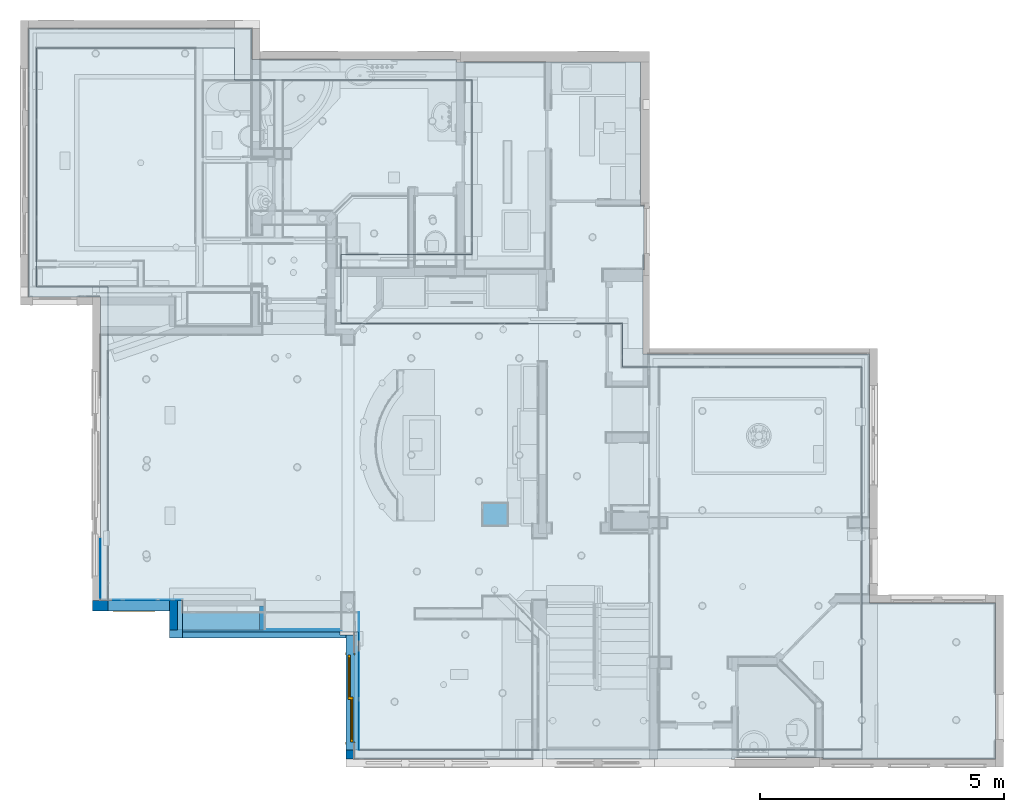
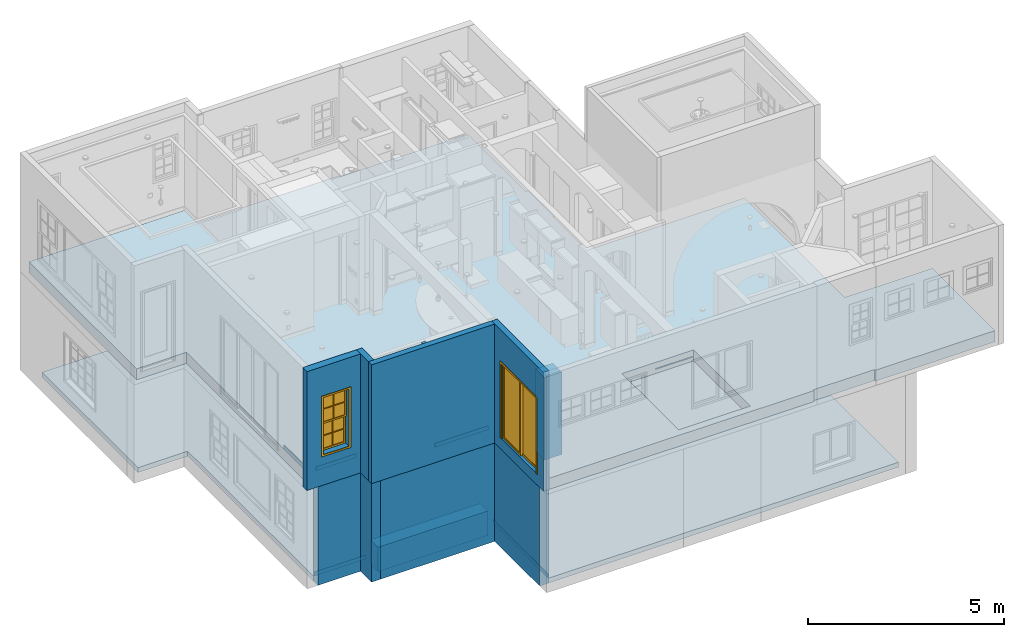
# One storey, part 1 of 81: 15 walls, 2 slabs, 1 column, 1 door, 1 window, 4 openings.
"""IFC2X3 building model written with IfcOpenShell, lengths in feet."""

from ifc_helpers import new_model, entity, si_unit, converted_unit, derived_unit, direction, frame, frame_2d, origin, origin_2d_with_axis, place, context, subcontext, project, spatial, polyline, rectangle, outline, extrude, clip, bounded_halfspace, source, transform, mapped, material, material_list, layer, layer_set, layer_usage, type_object, type_shapes, element, fill, save


model = new_model("IFC2X3")

# Units and contexts
model_context = context("Model", 3, precision=0.0001, world=origin(), true_north=direction((6.12303176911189e-17, 1.0)))
body_context = subcontext(model_context, "Body", "Model", "MODEL_VIEW")
ifc_project = project(units=[converted_unit("LENGTHUNIT", "FOOT", entity("IfcRatioMeasure", 0.3048), si_unit("LENGTHUNIT", "METRE"), dimensions=[1, 0, 0, 0, 0, 0, 0]), converted_unit("AREAUNIT", "SQUARE FOOT", entity("IfcRatioMeasure", 0.09290304), si_unit("AREAUNIT", "SQUARE_METRE"), dimensions=[2, 0, 0, 0, 0, 0, 0]), converted_unit("VOLUMEUNIT", "CUBIC FOOT", entity("IfcRatioMeasure", 0.028316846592), si_unit("VOLUMEUNIT", "CUBIC_METRE"), dimensions=[3, 0, 0, 0, 0, 0, 0]), converted_unit("PLANEANGLEUNIT", "DEGREE", entity("IfcRatioMeasure", 0.0174532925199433), si_unit("PLANEANGLEUNIT", "RADIAN"), dimensions=[0, 0, 0, 0, 0, 0, 0]), si_unit("MASSUNIT", "GRAM", prefix="KILO"), derived_unit("MASSDENSITYUNIT", [(si_unit("MASSUNIT", "GRAM", prefix="KILO"), 1), (si_unit("LENGTHUNIT", "METRE"), -3)]), derived_unit("MOMENTOFINERTIAUNIT", [(si_unit("LENGTHUNIT", "METRE"), 4)]), si_unit("TIMEUNIT", "SECOND"), si_unit("FREQUENCYUNIT", "HERTZ"), si_unit("THERMODYNAMICTEMPERATUREUNIT", "DEGREE_CELSIUS"), derived_unit("THERMALTRANSMITTANCEUNIT", [(si_unit("MASSUNIT", "GRAM", prefix="KILO"), 1), (si_unit("THERMODYNAMICTEMPERATUREUNIT", "KELVIN"), -1), (si_unit("TIMEUNIT", "SECOND"), -3)]), derived_unit("VOLUMETRICFLOWRATEUNIT", [(si_unit("LENGTHUNIT", "METRE"), 3), (si_unit("TIMEUNIT", "SECOND"), -1)]), si_unit("ELECTRICCURRENTUNIT", "AMPERE"), si_unit("ELECTRICVOLTAGEUNIT", "VOLT"), si_unit("POWERUNIT", "WATT"), si_unit("FORCEUNIT", "NEWTON"), si_unit("ILLUMINANCEUNIT", "LUX"), si_unit("LUMINOUSFLUXUNIT", "LUMEN"), si_unit("LUMINOUSINTENSITYUNIT", "CANDELA"), derived_unit("USERDEFINED", [(si_unit("MASSUNIT", "GRAM", prefix="KILO"), -1), (si_unit("LENGTHUNIT", "METRE"), -2), (si_unit("TIMEUNIT", "SECOND"), 3), (si_unit("LUMINOUSFLUXUNIT", "LUMEN"), 1)]), derived_unit("LINEARVELOCITYUNIT", [(si_unit("LENGTHUNIT", "METRE"), 1), (si_unit("TIMEUNIT", "SECOND"), -1)]), si_unit("PRESSUREUNIT", "PASCAL"), derived_unit("USERDEFINED", [(si_unit("LENGTHUNIT", "METRE"), -2), (si_unit("MASSUNIT", "GRAM", prefix="KILO"), 1), (si_unit("TIMEUNIT", "SECOND"), -2)]), derived_unit("LINEARFORCEUNIT", [(si_unit("MASSUNIT", "GRAM", prefix="KILO"), 1), (si_unit("LENGTHUNIT", "METRE"), 1), (si_unit("TIMEUNIT", "SECOND"), -2), (si_unit("LENGTHUNIT", "METRE"), -1)]), derived_unit("PLANARFORCEUNIT", [(si_unit("MASSUNIT", "GRAM", prefix="KILO"), 1), (si_unit("LENGTHUNIT", "METRE"), 1), (si_unit("TIMEUNIT", "SECOND"), -2), (si_unit("LENGTHUNIT", "METRE"), -2)])], contexts=[model_context])

# Site, building, storey
site_placement = place(None, origin())
site = spatial("IfcSite", under=ifc_project, at=site_placement, Name="Default", CompositionType="ELEMENT")
building_placement = place(site_placement, origin())
building = spatial("IfcBuilding", under=site, at=building_placement, CompositionType="ELEMENT")
storey_placement = place(building_placement, origin())
storey = spatial("IfcBuildingStorey", under=building, at=storey_placement, Name="First floor", CompositionType="ELEMENT", Elevation=0.0)

# Column
ifc_material_1 = material(Name="Default New Material")
column_type = type_object("IfcColumnType", Name="M_Rectangular Column:475 x 610mm", PredefinedType="COLUMN", material=ifc_material_1)
shared_shape_1 = source(origin(), body_context, "Body", "SweptSolid", [
    extrude(rectangle(XDim=1.49999999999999, YDim=1.66666666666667, at=frame_2d((1.77635683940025e-15, 0.0), x_axis=(1.0, 0.0))), frame((10.0, 16.9583333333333, 0.0), z_axis=(0.0, 0.0, 1.0), x_axis=(0.0, -1.0, 0.0)), (0.0, 0.0, 1.0), 8.41666666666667),
])
type_shapes(column_type, [shared_shape_1])
column_placement = place(storey_placement, origin())
element("IfcColumn", 1, at=column_placement, inside=storey, type_object=column_type, material=ifc_material_1, Name="M_Rectangular Column:475 x 610mm", ObjectType="M_Rectangular Column:475 x 610mm", context=body_context, shape_type="MappedRepresentation", body=[
    mapped(shared_shape_1, transform((0.0, 0.0, 0.0), scale=1.0)),
])

# Slab
ifc_layer_1 = layer(ifc_material_1, 0.5)
ifc_layer_set_1 = layer_set([ifc_layer_1], Name="Floor:Floor_6\"")
ifc_layer_usage_1 = layer_usage(ifc_layer_set_1, "AXIS3", "POSITIVE", 0.0)
slab_type_1 = type_object("IfcSlabType", Name="Floor:Floor_6\"", PredefinedType="FLOOR", material=ifc_layer_set_1)
slab_1_placement = place(storey_placement, origin())
element("IfcSlab", 2, at=slab_1_placement, inside=storey, type_object=slab_type_1, material=ifc_layer_usage_1, Name="Floor:Floor_6\"", ObjectType="Floor:Floor_6\"", PredefinedType="FLOOR", context=body_context, shape_type="SweptSolid", body=[
    extrude(outline(polyline([(5.67129629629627, -21.5532407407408), (21.7129629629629, -21.5532407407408), (21.712962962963, -8.24074074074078), (19.5462962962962, -8.24074074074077), (19.5462962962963, 7.69675925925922), (7.83796296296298, 7.69675925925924), (7.83796296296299, -1.09490740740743), (3.21296296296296, -1.09490740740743), (3.21296296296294, 17.7800925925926), (0.29629629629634, 17.7800925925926), (0.296296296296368, 33.8634259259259), (-25.412037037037, 33.8634259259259), (-25.412037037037, 0.0717592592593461), (-17.4953703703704, 0.071759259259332), (-17.4953703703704, -11.761574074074), (-15.3703703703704, -11.7615740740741), (-15.3703703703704, -16.761574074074), (5.67129629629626, -16.7615740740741), (5.67129629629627, -21.5532407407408)])), frame((0.761574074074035, 26.5787037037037, 0.0), z_axis=(0.0, 0.0, -1.0), x_axis=(0.0, 1.0, 0.0)), (0.0, 0.0, 1.0), 0.5),
])

# Slab, openings
ifc_layer_2 = layer(ifc_material_1, 1.125)
ifc_layer_set_2 = layer_set([ifc_layer_2], Name="Floor:Floor_13.5\"")
ifc_layer_usage_2 = layer_usage(ifc_layer_set_2, "AXIS3", "POSITIVE", 0.0)
slab_type_2 = type_object("IfcSlabType", Name="Floor:Floor_13.5\"", PredefinedType="FLOOR", material=ifc_layer_set_2)
slab_2_placement = place(storey_placement, frame((-21.3125, 0.541666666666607, 9.54166666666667)))
slab_2 = element("IfcSlab", 3, at=slab_2_placement, inside=storey, type_object=slab_type_2, material=ifc_layer_usage_2, Name="Floor:Floor_13.5\"", ObjectType="Floor:Floor_13.5\"", PredefinedType="FLOOR", context=body_context, shape_type="SweptSolid", body=[
    extrude(outline(polyline([(32.4479166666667, 6.52083333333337), (32.4479166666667, 24.5208333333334), (17.4479166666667, 24.5208333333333), (17.4479166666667, 22.4371548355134), (3.71875000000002, 22.4371548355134), (3.71875000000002, 22.2704881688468), (-8.61458333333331, 22.2704881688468), (-8.61458333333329, 12.6454881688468), (-8.86458333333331, 12.6454881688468), (-8.8645833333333, 8.35382150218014), (-8.78124999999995, 8.35382150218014), (-8.78124999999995, 2.68750000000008), (-23.9895833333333, 2.68750000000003), (-23.9895833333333, -14.0416666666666), (-32.4479166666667, -14.0416666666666), (-32.4479166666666, -24.5208333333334), (-20.8645833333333, -24.5208333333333), (-20.8645833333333, -24.3958333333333), (-14.96875, -24.3958333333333), (-14.96875, -24.5208333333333), (-9.29232083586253, -24.5208333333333), (10.59375, -24.5208333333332), (10.59375, -15.8541666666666), (22.46875, -15.8541666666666), (22.46875, -13.8541666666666), (27.6354166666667, -13.8541666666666), (27.6354166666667, 6.52083333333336), (32.4479166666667, 6.52083333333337)])), frame((32.4479166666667, 24.5208333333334, 1.125), z_axis=(0.0, 0.0, -1.0), x_axis=(-1.0, 0.0, 0.0)), (0.0, 0.0, 1.0), 1.125),
])
opening_1_placement = place(slab_2_placement, origin())
element("IfcOpeningElement", 4, at=opening_1_placement, cuts=slab_2, ObjectType="Recess", context=body_context, shape_type="SweptSolid", body=[
    extrude(rectangle(XDim=3.6995442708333, YDim=0.124907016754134, at=origin_2d_with_axis()), frame((39.87060546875, 10.2291201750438, 0.416666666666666), z_axis=(0.0, 0.0, 1.0), x_axis=(-1.0, 0.0, 0.0)), (0.0, 0.0, 1.0), 0.0833333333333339),
])
opening_2_placement = place(slab_2_placement, frame((38.2291666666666, 5.43750000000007, 1.125)))
element("IfcOpeningElement", 5, at=opening_2_placement, cuts=slab_2, Name="Floor:Floor_13.5\":2", ObjectType="Opening", context=body_context, shape_type="SweptSolid", body=[
    extrude(rectangle(XDim=6.91666666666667, YDim=9.45833333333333, at=origin_2d_with_axis()), origin(), (0.0, 0.0, -1.0), 1.125),
])

# Wall, opening, door
ifc_layer_3 = layer(ifc_material_1, 0.541666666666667)
ifc_layer_set_3 = layer_set([ifc_layer_3], Name="Basic Wall:Wall_6.5\"")
ifc_layer_usage_3 = layer_usage(ifc_layer_set_3, "AXIS2", "NEGATIVE", 0.270833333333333)
wall_type_1 = type_object("IfcWallType", Name="Basic Wall:Wall_6.5\"", PredefinedType="STANDARD", material=ifc_layer_set_3)
wall_1_placement = place(storey_placement, frame((0.270833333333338, 0.541666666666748, 9.54166666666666), z_axis=(0.0, 0.0, 1.0), x_axis=(0.0, 1.0, 0.0)))
wall_1 = element("IfcWallStandardCase", 6, at=wall_1_placement, inside=storey, type_object=wall_type_1, material=ifc_layer_usage_3, Name="Basic Wall:Wall_6.5\"", ObjectType="Basic Wall:Wall_6.5\"", context=body_context, shape_type="SweptSolid", body=[
    extrude(rectangle(XDim=8.66666666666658, YDim=0.541666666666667, at=frame_2d((4.33333333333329, 0.0), x_axis=(-1.0, 0.0))), origin(), (0.0, 0.0, 1.0), 12.125),
])
opening_3_placement = place(wall_1_placement, frame((1.16666666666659, -0.270833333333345, 1.125)))
opening_3 = element("IfcOpeningElement", 7, at=opening_3_placement, cuts=wall_1, Name="Door_8:5'-10\" X 7'-8\":1", ObjectType="Opening", context=body_context, shape_type="SweptSolid", body=[
    extrude(rectangle(XDim=7.66666666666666, YDim=5.83333333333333, at=frame_2d((3.83333333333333, 2.91666666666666), x_axis=(-1.0, 0.0))), frame((0.0, 0.0, 0.0), z_axis=(0.0, 1.0, 0.0), x_axis=(0.0, 0.0, 1.0)), (0.0, 0.0, 1.0), 0.541666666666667),
])
ifc_material_2 = material(Name="Glass")
ifc_material_list_1 = material_list([ifc_material_1, ifc_material_2])
ifc_material_list_2 = material_list([ifc_material_1, ifc_material_1])
door_style = type_object("IfcDoorStyle", Name="Door_8:5'-10\" X 7'-8\"", ConstructionType="NOTDEFINED", OperationType="NOTDEFINED", ParameterTakesPrecedence=False, Sizeable=False, material=ifc_material_list_2)
shared_shape_2 = source(origin(), body_context, "Body", "SweptSolid", [
    extrude(outline(polyline([(-2.91666666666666, -3.79166666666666), (-2.91666666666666, 3.875), (-3.08333333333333, 3.875), (-3.08333333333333, -3.95833333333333), (3.08333333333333, -3.95833333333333), (3.08333333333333, 3.875), (2.91666666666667, 3.875), (2.91666666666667, -3.79166666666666), (-2.91666666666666, -3.79166666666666)])), frame((2.91666666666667, 1.41666666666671, 3.875), z_axis=(0.0, 1.0, 0.0), x_axis=(1.0, 0.0, 0.0)), (0.0, 0.0, -1.0), 0.0416666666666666),
    extrude(outline(polyline([(-3.875, -2.91666666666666), (-3.875, -3.08333333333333), (3.95833333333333, -3.08333333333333), (3.95833333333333, 3.08333333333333), (-3.875, 3.08333333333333), (-3.875, 2.91666666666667), (3.79166666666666, 2.91666666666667), (3.79166666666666, -2.91666666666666), (-3.875, -2.91666666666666)])), frame((2.91666666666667, 0.833333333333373, 3.875), z_axis=(0.0, 1.0, 0.0), x_axis=(0.0, 0.0, 1.0)), (0.0, 0.0, -1.0), 0.0416666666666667),
    extrude(outline(polyline([(-3.83333333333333, -1.49999999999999), (3.83333333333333, -1.49999999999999), (3.83333333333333, 1.49999999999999), (-3.83333333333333, 1.49999999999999), (-3.83333333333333, -1.49999999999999)]), holes=[polyline([(-3.66666666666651, -1.33333333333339), (-3.66666666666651, 1.33333333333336), (3.66666666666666, 1.33333333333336), (3.66666666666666, -1.33333333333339), (-3.66666666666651, -1.33333333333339)])]), frame((1.5, 1.08333333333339, 3.83333333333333), z_axis=(0.0, -1.0, 0.0), x_axis=(0.0, 0.0, -1.0)), (0.0, 0.0, 1.0), 0.166666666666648),
    extrude(outline(polyline([(-3.83333333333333, -1.49999999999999), (3.83333333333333, -1.49999999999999), (3.83333333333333, 1.49999999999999), (-3.83333333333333, 1.49999999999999), (-3.83333333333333, -1.49999999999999)]), holes=[polyline([(-3.66666666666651, -1.33333333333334), (-3.66666666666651, 1.33333333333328), (3.66666666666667, 1.33333333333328), (3.66666666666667, -1.33333333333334), (-3.66666666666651, -1.33333333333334)])]), frame((4.33333333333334, 1.25000000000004, 3.83333333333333), z_axis=(0.0, -1.0, 0.0), x_axis=(0.0, 0.0, -1.0)), (0.0, 0.0, 1.0), 0.166666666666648),
    extrude(rectangle(XDim=2.66666666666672, YDim=0.0416666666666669, at=frame_2d((0.0, 2.77555756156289e-17), x_axis=(1.0, 0.0))), frame((1.49999999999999, 1.0, 0.166666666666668)), (0.0, 0.0, 1.0), 7.33333333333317),
    extrude(rectangle(XDim=2.66666666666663, YDim=0.0416666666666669, at=frame_2d((1.11022302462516e-16, 5.55111512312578e-17), x_axis=(1.0, 0.0))), frame((4.33333333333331, 1.16666666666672, 0.166666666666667)), (0.0, 0.0, 1.0), 7.33333333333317),
])
type_shapes(door_style, [shared_shape_2])
door_placement = place(opening_3_placement, frame((0.0, -0.833333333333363, 0.0)))
door = element("IfcDoor", 8, at=door_placement, inside=storey, type_object=door_style, material=ifc_material_list_1, Name="Door_8:5'-10\" X 7'-8\"", ObjectType="Door_8:5'-10\" X 7'-8\"", OverallHeight=7.66666666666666, OverallWidth=5.83333333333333, context=body_context, shape_type="MappedRepresentation", body=[
    mapped(shared_shape_2, transform((0.0, 0.0, 0.0), scale=1.0)),
])
fill(opening_3, door)

# Walls
ifc_layer_usage_4 = layer_usage(ifc_layer_set_3, "AXIS2", "NEGATIVE", 0.270833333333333)
wall_2_placement = place(storey_placement, frame((0.0, 8.93749999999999, 9.54166666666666), z_axis=(0.0, 0.0, 1.0), x_axis=(-1.0, 0.0, 0.0)))
element("IfcWallStandardCase", 9, at=wall_2_placement, inside=storey, type_object=wall_type_1, material=ifc_layer_usage_4, Name="Basic Wall:Wall_6.5\"", ObjectType="Basic Wall:Wall_6.5\"", context=body_context, shape_type="SweptSolid", body=[
    extrude(rectangle(XDim=11.875, YDim=0.541666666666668, at=frame_2d((5.93750000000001, 0.0), x_axis=(-1.0, 0.0))), origin(), (0.0, 0.0, 1.0), 12.125),
])
ifc_layer_usage_5 = layer_usage(ifc_layer_set_3, "AXIS2", "NEGATIVE", 0.270833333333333)
wall_3_placement = place(storey_placement, frame((-11.6041666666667, 9.20833333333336, 9.54166666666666), z_axis=(0.0, 0.0, 1.0), x_axis=(0.0, 1.0, 0.0)))
element("IfcWallStandardCase", 10, at=wall_3_placement, inside=storey, type_object=wall_type_1, material=ifc_layer_usage_5, Name="Basic Wall:Wall_6.5\"", ObjectType="Basic Wall:Wall_6.5\"", context=body_context, shape_type="SweptSolid", body=[
    extrude(rectangle(XDim=1.99999999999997, YDim=0.541666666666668, at=frame_2d((0.999999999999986, 0.0), x_axis=(-1.0, 0.0))), origin(), (0.0, 0.0, 1.0), 12.125),
])

# Wall, opening, window
ifc_layer_4 = layer(ifc_material_1, 0.708333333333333)
ifc_layer_set_4 = layer_set([ifc_layer_4], Name="Basic Wall:Wall_8.5\"")
ifc_layer_usage_6 = layer_usage(ifc_layer_set_4, "AXIS2", "NEGATIVE", 0.354166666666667)
wall_type_2 = type_object("IfcWallType", Name="Basic Wall:Wall_8.5\"", PredefinedType="STANDARD", material=ifc_layer_set_4)
wall_4_placement = place(storey_placement, frame((-11.875, 10.8541666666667, 9.54166666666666), z_axis=(0.0, 0.0, 1.0), x_axis=(-1.0, 0.0, 0.0)))
wall_4 = element("IfcWallStandardCase", 11, at=wall_4_placement, inside=storey, type_object=wall_type_2, material=ifc_layer_usage_6, Name="Basic Wall:Wall_8.5\"", ObjectType="Basic Wall:Wall_8.5\"", context=body_context, shape_type="SweptSolid", body=[
    extrude(rectangle(XDim=5.16666666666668, YDim=0.708333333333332, at=frame_2d((2.58333333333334, 0.0), x_axis=(-1.0, 0.0))), origin(), (0.0, 0.0, 1.0), 12.125),
])
opening_4_placement = place(wall_4_placement, frame((1.12500000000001, -0.35416666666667, 3.125)))
opening_4 = element("IfcOpeningElement", 12, at=opening_4_placement, cuts=wall_4, Name="Window_4:2'-6\" X 5'-10\":1", ObjectType="Opening", context=body_context, shape_type="SweptSolid", body=[
    extrude(rectangle(XDim=5.83333333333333, YDim=2.5, at=frame_2d((2.91666666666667, 1.25), x_axis=(-1.0, 0.0))), frame((0.0, 0.0, 0.0), z_axis=(0.0, 1.0, 0.0), x_axis=(0.0, 0.0, 1.0)), (0.0, 0.0, 1.0), 0.708333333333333),
])
ifc_material_list_3 = material_list([ifc_material_2, ifc_material_1])
ifc_material_3 = material(Name="Trim")
ifc_material_4 = material(Name="Sash")
ifc_material_list_4 = material_list([ifc_material_3, ifc_material_4, ifc_material_3, ifc_material_2])
window_style = type_object("IfcWindowStyle", Name="Window_4:2'-6\" X 5'-10\"", ConstructionType="NOTDEFINED", OperationType="NOTDEFINED", ParameterTakesPrecedence=False, Sizeable=False, material=ifc_material_list_4)
shared_shape_3 = source(origin(), body_context, "Body", "SweptSolid", [
    extrude(rectangle(XDim=0.0435871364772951, YDim=1.05859375, at=origin_2d_with_axis()), frame((1.80403645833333, 0.250960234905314, 4.3515625), z_axis=(0.0, 0.0, 1.0), x_axis=(0.0, 1.0, 0.0)), (0.0, 0.0, 1.0), 1.31510416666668),
    extrude(rectangle(XDim=0.0435871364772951, YDim=1.05859375, at=origin_2d_with_axis()), frame((0.695963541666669, 0.250960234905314, 4.3515625), z_axis=(0.0, 0.0, 1.0), x_axis=(0.0, 1.0, 0.0)), (0.0, 0.0, 1.0), 1.31510416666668),
    extrude(rectangle(XDim=0.0435871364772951, YDim=1.05859375, at=origin_2d_with_axis()), frame((1.80403645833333, 0.250960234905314, 3.01041666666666), z_axis=(0.0, 0.0, 1.0), x_axis=(0.0, 1.0, 0.0)), (0.0, 0.0, 1.0), 1.29166666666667),
    extrude(rectangle(XDim=0.0435871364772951, YDim=1.05859374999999, at=origin_2d_with_axis()), frame((0.695963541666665, 0.250960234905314, 3.01041666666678), z_axis=(0.0, 0.0, 1.0), x_axis=(0.0, 1.0, 0.0)), (0.0, 0.0, 1.0), 1.29166666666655),
    extrude(outline(polyline([(-1.25, -1.49479166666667), (1.25, -1.49479166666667), (1.25, 1.49479166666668), (-1.25, 1.49479166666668), (-1.25, -1.49479166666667)]), holes=[polyline([(0.0247395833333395, -1.328125), (0.0247395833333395, -0.0130208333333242), (1.08333333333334, -0.0130208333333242), (1.08333333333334, -1.328125), (0.0247395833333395, -1.328125)]), polyline([(0.0247395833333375, 1.32812500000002), (1.08333333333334, 1.32812500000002), (1.08333333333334, 0.0364583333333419), (0.0247395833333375, 0.0364583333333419), (0.0247395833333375, 1.32812500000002)]), polyline([(-1.08333333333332, -0.013020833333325), (-0.0247395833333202, -0.013020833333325), (-0.0247395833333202, -1.328125), (-1.08333333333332, -1.328125), (-1.08333333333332, -0.013020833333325)]), polyline([(-1.08333333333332, 1.32812499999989), (-0.0247395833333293, 1.32812499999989), (-0.0247395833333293, 0.0364583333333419), (-1.08333333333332, 0.0364583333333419), (-1.08333333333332, 1.32812499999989)])]), frame((1.24999999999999, 0.166666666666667, 4.33854166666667), z_axis=(0.0, 1.0, 0.0), x_axis=(1.0, 0.0, 0.0)), (0.0, 0.0, 1.0), 0.166666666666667),
    extrude(rectangle(XDim=0.0416666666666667, YDim=1.05859374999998, at=frame_2d((-1.38777878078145e-17, 0.0), x_axis=(1.0, 0.0))), frame((0.695963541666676, 0.0833333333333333, 0.166666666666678), z_axis=(0.0, 0.0, 1.0), x_axis=(0.0, -1.0, 0.0)), (0.0, 0.0, 1.0), 1.29166666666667),
    extrude(rectangle(XDim=0.0416666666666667, YDim=1.05859374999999, at=frame_2d((-1.38777878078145e-17, 0.0), x_axis=(1.0, 0.0))), frame((1.80403645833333, 0.0833333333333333, 0.166666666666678), z_axis=(0.0, 0.0, 1.0), x_axis=(0.0, -1.0, 0.0)), (0.0, 0.0, 1.0), 1.29166666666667),
    extrude(rectangle(XDim=0.0416666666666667, YDim=1.05859374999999, at=frame_2d((-1.38777878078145e-17, 0.0), x_axis=(1.0, 0.0))), frame((1.80403645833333, 0.0833333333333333, 1.50781250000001), z_axis=(0.0, 0.0, 1.0), x_axis=(0.0, -1.0, 0.0)), (0.0, 0.0, 1.0), 1.33593749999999),
    extrude(rectangle(XDim=0.0416666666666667, YDim=1.05859374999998, at=frame_2d((-1.38777878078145e-17, 0.0), x_axis=(1.0, 0.0))), frame((0.695963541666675, 0.0833333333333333, 1.50781250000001), z_axis=(0.0, 0.0, 1.0), x_axis=(0.0, -1.0, 0.0)), (0.0, 0.0, 1.0), 1.33593749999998),
    extrude(outline(polyline([(-1.25000000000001, -1.50520833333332), (1.25000000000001, -1.50520833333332), (1.25000000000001, 1.50520833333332), (-1.25000000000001, 1.50520833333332), (-1.25000000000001, -1.50520833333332)]), holes=[polyline([(0.0247395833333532, 1.33854166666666), (1.08333333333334, 1.33854166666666), (1.08333333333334, 0.0468749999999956), (0.0247395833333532, 0.0468749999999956), (0.0247395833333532, 1.33854166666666)]), polyline([(-1.0833333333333, 1.33854166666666), (-0.0247395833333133, 1.33854166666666), (-0.0247395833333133, 0.0468749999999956), (-1.0833333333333, 0.0468749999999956), (-1.0833333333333, 1.33854166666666)]), polyline([(0.0247395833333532, -1.33854166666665), (0.0247395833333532, -0.00260416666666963), (1.08333333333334, -0.00260416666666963), (1.08333333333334, -1.33854166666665), (0.0247395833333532, -1.33854166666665)]), polyline([(-1.0833333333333, -0.00260416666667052), (-0.0247395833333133, -0.00260416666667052), (-0.0247395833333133, -1.33854166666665), (-1.0833333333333, -1.33854166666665), (-1.0833333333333, -0.00260416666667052)])]), frame((1.24999999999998, 0.0, 1.50520833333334), z_axis=(0.0, 1.0, 0.0), x_axis=(1.0, 0.0, 0.0)), (0.0, 0.0, 1.0), 0.166666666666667),
    extrude(outline(polyline([(-1.41666666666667, -3.08333333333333), (1.41666666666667, -3.08333333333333), (1.41666666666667, 3.08333333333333), (-1.41666666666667, 3.08333333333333), (-1.41666666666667, -3.08333333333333)]), holes=[polyline([(-1.25, -2.91666666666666), (-1.25, 2.91666666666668), (1.25, 2.91666666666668), (1.25, -2.91666666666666), (-1.25, -2.91666666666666)])]), frame((1.25, -0.0416666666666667, 2.91666666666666), z_axis=(0.0, 1.0, 0.0), x_axis=(-1.0, 0.0, 0.0)), (0.0, 0.0, 1.0), 0.0416666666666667),
    extrude(outline(polyline([(-1.41666666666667, -3.08333333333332), (1.41666666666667, -3.08333333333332), (1.41666666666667, 3.08333333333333), (-1.41666666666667, 3.08333333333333), (-1.41666666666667, -3.08333333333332)]), holes=[polyline([(-1.25, -2.91666666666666), (-1.25, 2.91666666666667), (1.25, 2.91666666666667), (1.25, -2.91666666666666), (-1.25, -2.91666666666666)])]), frame((1.24999999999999, 0.708333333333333, 2.91666666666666), z_axis=(0.0, 1.0, 0.0), x_axis=(-1.0, 0.0, 0.0)), (0.0, 0.0, 1.0), 0.0416666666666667),
])
type_shapes(window_style, [shared_shape_3])
window_placement = place(opening_4_placement, origin())
window = element("IfcWindow", 13, at=window_placement, inside=storey, type_object=window_style, material=ifc_material_list_3, Name="Window_4:2'-6\" X 5'-10\"", ObjectType="Window_4:2'-6\" X 5'-10\"", OverallHeight=5.83333333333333, OverallWidth=2.5, context=body_context, shape_type="MappedRepresentation", body=[
    mapped(shared_shape_3, transform((0.0, 0.0, 0.0), scale=1.0)),
])
fill(opening_4, window)

# Walls
ifc_layer_usage_7 = layer_usage(ifc_layer_set_4, "AXIS2", "NEGATIVE", 0.354166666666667)
wall_5_placement = place(storey_placement, frame((-11.8750000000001, 10.8541666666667, -0.5), z_axis=(0.0, 0.0, 1.0), x_axis=(-1.0, 0.0, 0.0)))
element("IfcWallStandardCase", 14, at=wall_5_placement, inside=storey, type_object=wall_type_2, material=ifc_layer_usage_7, Name="Basic Wall:Wall_8.5\"", ObjectType="Basic Wall:Wall_8.5\"", context=body_context, shape_type="SweptSolid", body=[
    extrude(rectangle(XDim=4.12499999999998, YDim=0.708333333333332, at=frame_2d((2.06249999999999, 0.0), x_axis=(-1.0, 0.0))), origin(), (0.0, 0.0, 1.0), 10.0416666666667),
])
ifc_layer_5 = layer(ifc_material_1, 0.375)
ifc_layer_set_5 = layer_set([ifc_layer_5], Name="Basic Wall:Wall_4.5\"")
ifc_layer_usage_8 = layer_usage(ifc_layer_set_5, "AXIS2", "NEGATIVE", 0.1875)
wall_type_3 = type_object("IfcWallType", Name="Basic Wall:Wall_4.5\"", PredefinedType="STANDARD", material=ifc_layer_set_5)
wall_6_placement = place(storey_placement, frame((-5.64583333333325, 10.8333333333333, 10.6666666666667), z_axis=(0.0, 0.0, 1.0), x_axis=(0.0, -1.0, 0.0)))
element("IfcWallStandardCase", 15, at=wall_6_placement, inside=storey, type_object=wall_type_3, material=ifc_layer_usage_8, Name="Basic Wall:Wall_4.5\"", ObjectType="Basic Wall:Wall_4.5\"", context=body_context, shape_type="Clipping", body=[
    clip(extrude(rectangle(XDim=1.62499999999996, YDim=0.375, at=frame_2d((0.812499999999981, 0.0), x_axis=(-1.0, 0.0))), origin(), (0.0, 0.0, 1.0), 9.875), bounded_halfspace(frame((0.0, -0.1875, 9.875), z_axis=(0.0, 0.0, -1.0), x_axis=(0.0, -1.0, 0.0)), True, frame((0.0, -0.1875, 9.875), z_axis=(0.0, 0.0, -1.0), x_axis=(0.0, -1.0, 0.0)), polyline([(0.0, 0.0), (-0.375, 0.0), (-0.375000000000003, -1.62499999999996), (0.0, -1.62499999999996), (0.0, 0.0)]))),
])
ifc_layer_6 = layer(ifc_material_1, 0.833333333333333)
ifc_layer_set_6 = layer_set([ifc_layer_6], Name="Basic Wall:Wall_10\"")
ifc_layer_usage_9 = layer_usage(ifc_layer_set_6, "AXIS2", "NEGATIVE", 0.416666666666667)
wall_type_4 = type_object("IfcWallType", Name="Basic Wall:Wall_10\"", PredefinedType="STANDARD", material=ifc_layer_set_6)
wall_7_placement = place(storey_placement, frame((0.416724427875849, 1.14583333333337, -0.5), z_axis=(0.0, 0.0, 1.0), x_axis=(0.0, 1.0, 0.0)))
element("IfcWallStandardCase", 16, at=wall_7_placement, inside=storey, type_object=wall_type_4, material=ifc_layer_usage_9, Name="Basic Wall:Wall_10\"", ObjectType="Basic Wall:Wall_10\"", context=body_context, shape_type="SweptSolid", body=[
    extrude(rectangle(XDim=7.72916666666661, YDim=0.833333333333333, at=frame_2d((3.86458333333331, 0.0), x_axis=(-1.0, 0.0))), origin(), (0.0, 0.0, 1.0), 10.0416666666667),
])
ifc_layer_7 = layer(ifc_material_1, 0.416666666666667)
ifc_layer_set_7 = layer_set([ifc_layer_7], Name="Basic Wall:Wall_5\"")
ifc_layer_usage_10 = layer_usage(ifc_layer_set_7, "AXIS2", "NEGATIVE", 0.208333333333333)
wall_type_5 = type_object("IfcWallType", Name="Basic Wall:Wall_5\"", PredefinedType="STANDARD", material=ifc_layer_set_7)
wall_8_placement = place(storey_placement, frame((5.77612091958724e-05, 8.87499999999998, -0.5), z_axis=(0.0, 0.0, 1.0), x_axis=(-1.0, 0.0, 0.0)))
element("IfcWallStandardCase", 17, at=wall_8_placement, inside=storey, type_object=wall_type_5, material=ifc_layer_usage_10, Name="Basic Wall:Wall_5\"", ObjectType="Basic Wall:Wall_5\"", context=body_context, shape_type="SweptSolid", body=[
    extrude(outline(polyline([(11.0000577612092, -0.20833333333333), (11.0000577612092, 0.208333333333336), (0.0, 0.208333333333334), (0.0, 0.0), (0.416724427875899, 0.0), (0.416724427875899, -0.208333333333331), (11.0000577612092, -0.20833333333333)])), origin(), (0.0, 0.0, 1.0), 10.0416666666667),
])
ifc_layer_8 = layer(ifc_material_1, 0.875)
ifc_layer_set_8 = layer_set([ifc_layer_8], Name="Basic Wall:Wall_10.5\"")
ifc_layer_usage_11 = layer_usage(ifc_layer_set_8, "AXIS2", "NEGATIVE", 0.4375)
wall_type_6 = type_object("IfcWallType", Name="Basic Wall:Wall_10.5\"", PredefinedType="STANDARD", material=ifc_layer_set_8)
wall_9_placement = place(storey_placement, frame((-11.4375, 8.66666666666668, -0.5), z_axis=(0.0, 0.0, 1.0), x_axis=(0.0, 1.0, 0.0)))
element("IfcWallStandardCase", 18, at=wall_9_placement, inside=storey, type_object=wall_type_6, material=ifc_layer_usage_11, Name="Basic Wall:Wall_10.5\"", ObjectType="Basic Wall:Wall_10.5\"", context=body_context, shape_type="SweptSolid", body=[
    extrude(rectangle(XDim=2.54166666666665, YDim=0.875, at=frame_2d((1.27083333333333, -3.60822483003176e-16), x_axis=(-1.0, 0.0))), origin(), (0.0, 0.0, 1.0), 10.0416666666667),
])
ifc_layer_9 = layer(ifc_material_1, 1.29166666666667)
ifc_layer_set_9 = layer_set([ifc_layer_9], Name="Basic Wall:Wall_1' 3 1/2\"")
ifc_layer_usage_12 = layer_usage(ifc_layer_set_9, "AXIS2", "POSITIVE", -0.645833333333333)
wall_type_7 = type_object("IfcWallType", Name="Basic Wall:Wall_1' 3 1/2\"", PredefinedType="STANDARD", material=ifc_layer_set_9)
wall_10_placement = place(storey_placement, frame((-0.4166666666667, 9.72916666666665, 0.0), z_axis=(0.0, 0.0, 1.0), x_axis=(-1.0, 0.0, 0.0)))
element("IfcWallStandardCase", 19, at=wall_10_placement, inside=storey, type_object=wall_type_7, material=ifc_layer_usage_12, Name="Basic Wall:Wall_1' 3 1/2\"", ObjectType="Basic Wall:Wall_1' 3 1/2\"", context=body_context, shape_type="SweptSolid", body=[
    extrude(rectangle(XDim=10.5833333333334, YDim=1.29166666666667, at=frame_2d((5.29166666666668, 0.0), x_axis=(-1.0, 0.0))), origin(), (0.0, 0.0, 1.0), 2.5),
])
ifc_layer_10 = layer(ifc_material_1, 0.0416666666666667)
ifc_layer_set_10 = layer_set([ifc_layer_10], Name="Basic Wall:Wall Border_T1")
ifc_layer_usage_13 = layer_usage(ifc_layer_set_10, "AXIS2", "NEGATIVE", 0.0208333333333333)
wall_type_8 = type_object("IfcWallType", Name="Basic Wall:Wall Border_T1", PredefinedType="STANDARD", material=ifc_layer_set_10)
wall_11_placement = place(storey_placement, frame((0.854166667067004, 1.18749999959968, 0.0), z_axis=(0.0, 0.0, 1.0), x_axis=(0.0, 1.0, 0.0)))
element("IfcWallStandardCase", 20, at=wall_11_placement, inside=storey, type_object=wall_type_8, material=ifc_layer_usage_13, Name="Basic Wall:Wall Border_T1", ObjectType="Basic Wall:Wall Border_T1", context=body_context, shape_type="SweptSolid", body=[
    extrude(rectangle(XDim=9.22916666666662, YDim=0.0416666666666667, at=frame_2d((4.61458333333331, 0.0), x_axis=(-1.0, 0.0))), origin(), (0.0, 0.0, 1.0), 0.416666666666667),
])
ifc_layer_usage_14 = layer_usage(ifc_layer_set_10, "AXIS2", "NEGATIVE", 0.0208333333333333)
wall_12_placement = place(storey_placement, frame((-10.9583333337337, 11.2291666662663, 0.0), z_axis=(0.0, 0.0, 1.0), x_axis=(-1.0, 0.0, 0.0)))
element("IfcWallStandardCase", 21, at=wall_12_placement, inside=storey, type_object=wall_type_8, material=ifc_layer_usage_14, Name="Basic Wall:Wall Border_T1", ObjectType="Basic Wall:Wall Border_T1", context=body_context, shape_type="SweptSolid", body=[
    extrude(rectangle(XDim=5.00000000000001, YDim=0.0416666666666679, at=frame_2d((2.5, 0.0), x_axis=(-1.0, 0.0))), origin(), (0.0, 0.0, 1.0), 0.416666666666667),
])
ifc_layer_usage_15 = layer_usage(ifc_layer_set_10, "AXIS2", "POSITIVE", -0.0208333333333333)
wall_13_placement = place(storey_placement, frame((-0.291666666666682, 9.22916666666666, 10.6666666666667), z_axis=(0.0, 0.0, 1.0), x_axis=(-1.0, 0.0, 0.0)))
element("IfcWallStandardCase", 22, at=wall_13_placement, inside=storey, type_object=wall_type_8, material=ifc_layer_usage_15, Name="Basic Wall:Wall Border_T1", ObjectType="Basic Wall:Wall Border_T1", context=body_context, shape_type="SweptSolid", body=[
    extrude(rectangle(XDim=5.16666666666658, YDim=0.0416666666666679, at=frame_2d((2.58333333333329, 6.41847686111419e-17), x_axis=(-1.0, 0.0))), origin(), (0.0, 0.0, 1.0), 0.416666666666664),
])
ifc_layer_usage_16 = layer_usage(ifc_layer_set_10, "AXIS2", "POSITIVE", -0.0208333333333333)
wall_14_placement = place(storey_placement, frame((-11.875, 11.2291666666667, 10.6666666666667), z_axis=(0.0, 0.0, 1.0), x_axis=(-1.0, 0.0, 0.0)))
element("IfcWallStandardCase", 23, at=wall_14_placement, inside=storey, type_object=wall_type_8, material=ifc_layer_usage_16, Name="Basic Wall:Wall Border_T1", ObjectType="Basic Wall:Wall Border_T1", context=body_context, shape_type="SweptSolid", body=[
    extrude(rectangle(XDim=3.89583333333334, YDim=0.0416666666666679, at=frame_2d((1.94791666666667, 0.0), x_axis=(-1.0, 0.0))), origin(), (0.0, 0.0, 1.0), 0.416666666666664),
])
ifc_layer_usage_17 = layer_usage(ifc_layer_set_10, "AXIS2", "POSITIVE", -0.0208333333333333)
wall_15_placement = place(storey_placement, frame((-16.4791666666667, 11.25, 10.6666666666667), z_axis=(0.0, 0.0, 1.0), x_axis=(0.0, 1.0, 0.0)))
element("IfcWallStandardCase", 24, at=wall_15_placement, inside=storey, type_object=wall_type_8, material=ifc_layer_usage_17, Name="Basic Wall:Wall Border_T1", ObjectType="Basic Wall:Wall Border_T1", context=body_context, shape_type="SweptSolid", body=[
    extrude(rectangle(XDim=4.04166666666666, YDim=0.0416666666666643, at=frame_2d((2.02083333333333, -1.90819582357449e-17), x_axis=(-1.0, 0.0))), origin(), (0.0, 0.0, 1.0), 0.416666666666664),
])

save(model, "model.ifc")
